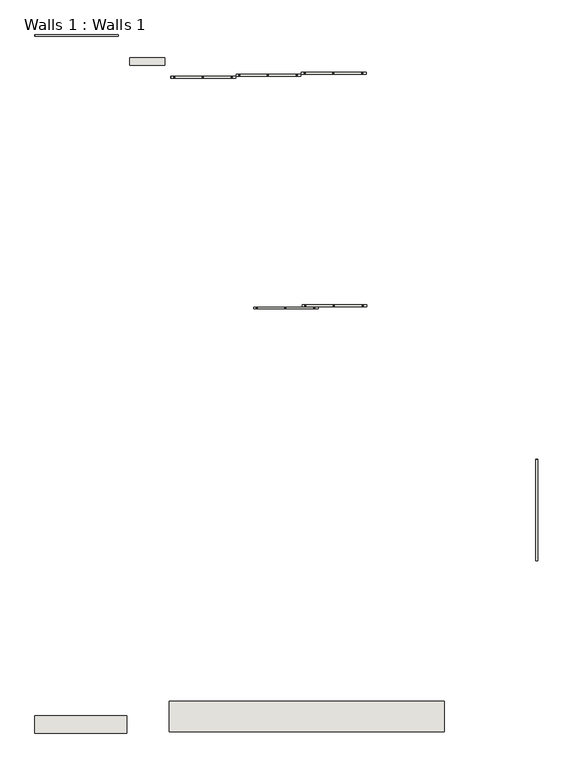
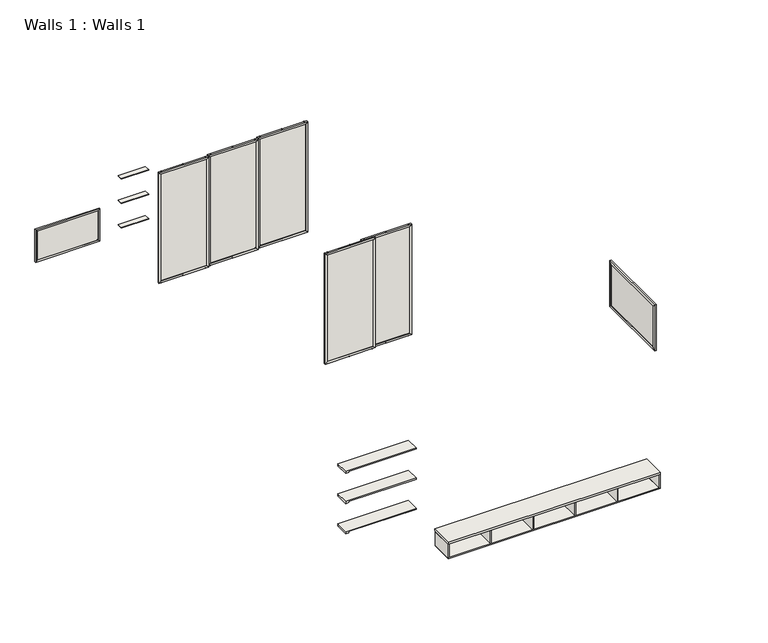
"""IFC4 building model written with IfcOpenShell, lengths in millimetres: wall geometry, Walls 1 : Walls 1."""

from ifc_helpers import new_model, si_unit, point, frame, frame_2d, origin, place, context, project, spatial, polyline, circle_curve, trimmed, segment, composite_curve, outline, extrude, faceted_brep, source, transform, mapped, element, save


def walls_1_walls_1_83899cc1(model_context):
    return source(origin(), model_context, "Body", "SolidModel", [
        extrude(outline(polyline([(2447.42874, -1131.0824715), (2447.42874, 178.9175285), (2467.42874, 178.9175285), (2467.42874, -1131.0824715), (2447.42874, -1131.0824715)])), frame((0.0, 0.0, 1067.3301948), z_axis=(0.0, 0.0, 1.0), x_axis=(1.0, 0.0, 0.0)), (0.0, 0.0, 1.0), 785.0),
        extrude(outline(polyline([(-1130.3753647, 1852.3301948), (-1170.3753647, 1892.3301948), (218.2104217, 1892.3301948), (178.2104217, 1852.3301948), (-1130.3753647, 1852.3301948)])), frame((2437.42874, 0.0, 0.0), z_axis=(1.0, 0.0, 0.0), x_axis=(0.0, 1.0, 0.0)), (0.0, 0.0, 1.0), 30.0),
        extrude(outline(polyline([(-1171.0824715, 1891.6230881), (-1131.0824715, 1851.6230881), (-1131.0824715, 1068.0373016), (-1171.0824715, 1028.0373016), (-1171.0824715, 1891.6230881)])), frame((2437.42874, 0.0, 0.0), z_axis=(1.0, 0.0, 0.0), x_axis=(0.0, 1.0, 0.0)), (0.0, 0.0, 1.0), 30.0),
        extrude(outline(polyline([(218.9175285, 1891.6230881), (218.9175285, 1028.0373016), (178.9175285, 1068.0373016), (178.9175285, 1851.6230881), (218.9175285, 1891.6230881)])), frame((2437.42874, 0.0, 0.0), z_axis=(1.0, 0.0, 0.0), x_axis=(0.0, 1.0, 0.0)), (0.0, 0.0, 1.0), 30.0),
        extrude(outline(polyline([(-1130.3753647, 1067.3301948), (178.2104217, 1067.3301948), (218.2104217, 1027.3301948), (-1170.3753647, 1027.3301948), (-1130.3753647, 1067.3301948)])), frame((2437.42874, 0.0, 0.0), z_axis=(1.0, 0.0, 0.0), x_axis=(0.0, 1.0, 0.0)), (0.0, 0.0, 1.0), 30.0),
        extrude(outline(polyline([(-752.57126, 5522.5768874), (87.42874, 5522.5768874), (87.42874, 5516.5768874), (-752.57126, 5516.5768874), (-752.57126, 5522.5768874)])), frame((0.0, 0.0, 65.0), z_axis=(0.0, 0.0, 1.0), x_axis=(1.0, 0.0, 0.0)), (0.0, 0.0, 1.0), 2030.0),
        extrude(outline(polyline([(-347.576549, 5528.5768874), (-334.6735428, 5528.5768874), (-334.6735428, 5510.5768874), (-347.576549, 5510.5768874), (-347.576549, 5528.5768874)])), frame((0.0, 0.0, 2120.0), z_axis=(0.0, 0.0, 1.0), x_axis=(1.0, 0.0, 0.0)), (0.0, 0.0, 1.0), 1.94884),
        extrude(outline(composite_curve([segment(trimmed(circle_curve(frame_2d((2125.9598198, -341.123831)), 4.0401802), [point((2125.9598198, -345.1640112))], [point((2125.9598198, -337.0836508))], False, "CARTESIAN"), True, "CONTINUOUS"), segment(trimmed(circle_curve(frame_2d((2125.9598198, -341.123831)), 4.0401802), [point((2125.9598198, -337.0836508))], [point((2125.9598198, -345.1640112))], False, "CARTESIAN"), True, "CONTINUOUS")], self_intersect=False)), frame((0.0, 5514.5768874, 0.0), z_axis=(0.0, 1.0, 0.0), x_axis=(0.0, 0.0, 1.0)), (0.0, 0.0, 1.0), 10.0),
        extrude(outline(polyline([(-737.576549, 5528.5768874), (-724.6735428, 5528.5768874), (-724.6735428, 5510.5768874), (-737.576549, 5510.5768874), (-737.576549, 5528.5768874)])), frame((0.0, 0.0, 2120.0), z_axis=(0.0, 0.0, 1.0), x_axis=(1.0, 0.0, 0.0)), (0.0, 0.0, 1.0), 1.94884),
        extrude(outline(composite_curve([segment(trimmed(circle_curve(frame_2d((2125.9598198, -731.123831)), 4.0401802), [point((2125.9598198, -735.1640112))], [point((2125.9598198, -727.0836508))], False, "CARTESIAN"), True, "CONTINUOUS"), segment(trimmed(circle_curve(frame_2d((2125.9598198, -731.123831)), 4.0401802), [point((2125.9598198, -727.0836508))], [point((2125.9598198, -735.1640112))], False, "CARTESIAN"), True, "CONTINUOUS")], self_intersect=False)), frame((0.0, 5514.5768874, 0.0), z_axis=(0.0, 1.0, 0.0), x_axis=(0.0, 0.0, 1.0)), (0.0, 0.0, 1.0), 10.0),
        extrude(outline(polyline([(50.6074994, 5528.5768874), (63.5105056, 5528.5768874), (63.5105056, 5510.5768874), (50.6074994, 5510.5768874), (50.6074994, 5528.5768874)])), frame((0.0, 0.0, 2120.0), z_axis=(0.0, 0.0, 1.0), x_axis=(1.0, 0.0, 0.0)), (0.0, 0.0, 1.0), 1.94884),
        extrude(outline(composite_curve([segment(trimmed(circle_curve(frame_2d((2125.9598198, 57.0602174)), 4.0401802), [point((2125.9598198, 53.0200371))], [point((2125.9598198, 61.1003976))], False, "CARTESIAN"), True, "CONTINUOUS"), segment(trimmed(circle_curve(frame_2d((2125.9598198, 57.0602174)), 4.0401802), [point((2125.9598198, 61.1003976))], [point((2125.9598198, 53.0200371))], False, "CARTESIAN"), True, "CONTINUOUS")], self_intersect=False)), frame((0.0, 5514.5768874, 0.0), z_axis=(0.0, 1.0, 0.0), x_axis=(0.0, 0.0, 1.0)), (0.0, 0.0, 1.0), 10.0),
        extrude(outline(polyline([(-347.576549, 5528.5768874), (-334.6735428, 5528.5768874), (-334.6735428, 5510.5768874), (-347.576549, 5510.5768874), (-347.576549, 5528.5768874)])), frame((0.0, 0.0, 38.05116), z_axis=(0.0, 0.0, 1.0), x_axis=(1.0, 0.0, 0.0)), (0.0, 0.0, 1.0), 1.94884),
        extrude(outline(composite_curve([segment(trimmed(circle_curve(frame_2d((34.0401802, -341.123831)), 4.0401802), [point((34.0401802, -345.1640112))], [point((34.0401802, -337.0836508))], False, "CARTESIAN"), True, "CONTINUOUS"), segment(trimmed(circle_curve(frame_2d((34.0401802, -341.123831)), 4.0401802), [point((34.0401802, -337.0836508))], [point((34.0401802, -345.1640112))], False, "CARTESIAN"), True, "CONTINUOUS")], self_intersect=False)), frame((0.0, 5514.5768874, 0.0), z_axis=(0.0, 1.0, 0.0), x_axis=(0.0, 0.0, 1.0)), (0.0, 0.0, 1.0), 10.0),
        extrude(outline(polyline([(-737.576549, 5528.5768874), (-724.6735428, 5528.5768874), (-724.6735428, 5510.5768874), (-737.576549, 5510.5768874), (-737.576549, 5528.5768874)])), frame((0.0, 0.0, 38.05116), z_axis=(0.0, 0.0, 1.0), x_axis=(1.0, 0.0, 0.0)), (0.0, 0.0, 1.0), 1.94884),
        extrude(outline(composite_curve([segment(trimmed(circle_curve(frame_2d((34.0401802, -731.123831)), 4.0401802), [point((34.0401802, -735.1640112))], [point((34.0401802, -727.0836508))], False, "CARTESIAN"), True, "CONTINUOUS"), segment(trimmed(circle_curve(frame_2d((34.0401802, -731.123831)), 4.0401802), [point((34.0401802, -727.0836508))], [point((34.0401802, -735.1640112))], False, "CARTESIAN"), True, "CONTINUOUS")], self_intersect=False)), frame((0.0, 5514.5768874, 0.0), z_axis=(0.0, 1.0, 0.0), x_axis=(0.0, 0.0, 1.0)), (0.0, 0.0, 1.0), 10.0),
        extrude(outline(polyline([(50.6074994, 5528.5768874), (63.5105056, 5528.5768874), (63.5105056, 5510.5768874), (50.6074994, 5510.5768874), (50.6074994, 5528.5768874)])), frame((0.0, 0.0, 38.05116), z_axis=(0.0, 0.0, 1.0), x_axis=(1.0, 0.0, 0.0)), (0.0, 0.0, 1.0), 1.94884),
        extrude(outline(composite_curve([segment(trimmed(circle_curve(frame_2d((34.0401802, 57.0602174)), 4.0401802), [point((34.0401802, 53.0200371))], [point((34.0401802, 61.1003976))], False, "CARTESIAN"), True, "CONTINUOUS"), segment(trimmed(circle_curve(frame_2d((34.0401802, 57.0602174)), 4.0401802), [point((34.0401802, 61.1003976))], [point((34.0401802, 53.0200371))], False, "CARTESIAN"), True, "CONTINUOUS")], self_intersect=False)), frame((0.0, 5514.5768874, 0.0), z_axis=(0.0, 1.0, 0.0), x_axis=(0.0, 0.0, 1.0)), (0.0, 0.0, 1.0), 10.0),
        extrude(outline(polyline([(2120.0, 111.7216332), (2120.0, -776.8641532), (2085.0, -741.8641532), (2085.0, 76.7216332), (2120.0, 111.7216332)])), frame((0.0, 5506.5768874, 0.0), z_axis=(0.0, 1.0, 0.0), x_axis=(0.0, 0.0, 1.0)), (0.0, 0.0, 1.0), 26.0),
        extrude(outline(polyline([(2119.2928932, -777.57126), (40.7071068, -777.57126), (75.7071068, -742.57126), (2084.2928932, -742.57126), (2119.2928932, -777.57126)])), frame((0.0, 5506.5768874, 0.0), z_axis=(0.0, 1.0, 0.0), x_axis=(0.0, 0.0, 1.0)), (0.0, 0.0, 1.0), 26.0),
        extrude(outline(polyline([(40.7071068, 112.42874), (2119.2928932, 112.42874), (2084.2928932, 77.42874), (75.7071068, 77.42874), (40.7071068, 112.42874)])), frame((0.0, 5506.5768874, 0.0), z_axis=(0.0, 1.0, 0.0), x_axis=(0.0, 0.0, 1.0)), (0.0, 0.0, 1.0), 26.0),
        extrude(outline(polyline([(40.0, 111.7216332), (75.0, 76.7216332), (75.0, -741.8641532), (40.0, -776.8641532), (40.0, 111.7216332)])), frame((0.0, 5506.5768874, 0.0), z_axis=(0.0, 1.0, 0.0), x_axis=(0.0, 0.0, 1.0)), (0.0, 0.0, 1.0), 26.0),
        extrude(outline(polyline([(-1647.57126, 5494.5768874), (-807.57126, 5494.5768874), (-807.57126, 5488.5768874), (-1647.57126, 5488.5768874), (-1647.57126, 5494.5768874)])), frame((0.0, 0.0, 65.0), z_axis=(0.0, 0.0, 1.0), x_axis=(1.0, 0.0, 0.0)), (0.0, 0.0, 1.0), 2030.0),
        extrude(outline(polyline([(-1242.576549, 5500.5768874), (-1229.6735428, 5500.5768874), (-1229.6735428, 5482.5768874), (-1242.576549, 5482.5768874), (-1242.576549, 5500.5768874)])), frame((0.0, 0.0, 2120.0), z_axis=(0.0, 0.0, 1.0), x_axis=(1.0, 0.0, 0.0)), (0.0, 0.0, 1.0), 1.94884),
        extrude(outline(composite_curve([segment(trimmed(circle_curve(frame_2d((2125.9598198, -1236.123831)), 4.0401802), [point((2125.9598198, -1240.1640112))], [point((2125.9598198, -1232.0836508))], False, "CARTESIAN"), True, "CONTINUOUS"), segment(trimmed(circle_curve(frame_2d((2125.9598198, -1236.123831)), 4.0401802), [point((2125.9598198, -1232.0836508))], [point((2125.9598198, -1240.1640112))], False, "CARTESIAN"), True, "CONTINUOUS")], self_intersect=False)), frame((0.0, 5486.5768874, 0.0), z_axis=(0.0, 1.0, 0.0), x_axis=(0.0, 0.0, 1.0)), (0.0, 0.0, 1.0), 10.0),
        extrude(outline(polyline([(-1632.576549, 5500.5768874), (-1619.6735428, 5500.5768874), (-1619.6735428, 5482.5768874), (-1632.576549, 5482.5768874), (-1632.576549, 5500.5768874)])), frame((0.0, 0.0, 2120.0), z_axis=(0.0, 0.0, 1.0), x_axis=(1.0, 0.0, 0.0)), (0.0, 0.0, 1.0), 1.94884),
        extrude(outline(composite_curve([segment(trimmed(circle_curve(frame_2d((2125.9598198, -1626.123831)), 4.0401802), [point((2125.9598198, -1630.1640112))], [point((2125.9598198, -1622.0836508))], False, "CARTESIAN"), True, "CONTINUOUS"), segment(trimmed(circle_curve(frame_2d((2125.9598198, -1626.123831)), 4.0401802), [point((2125.9598198, -1622.0836508))], [point((2125.9598198, -1630.1640112))], False, "CARTESIAN"), True, "CONTINUOUS")], self_intersect=False)), frame((0.0, 5486.5768874, 0.0), z_axis=(0.0, 1.0, 0.0), x_axis=(0.0, 0.0, 1.0)), (0.0, 0.0, 1.0), 10.0),
        extrude(outline(polyline([(-844.3925006, 5500.5768874), (-831.4894944, 5500.5768874), (-831.4894944, 5482.5768874), (-844.3925006, 5482.5768874), (-844.3925006, 5500.5768874)])), frame((0.0, 0.0, 2120.0), z_axis=(0.0, 0.0, 1.0), x_axis=(1.0, 0.0, 0.0)), (0.0, 0.0, 1.0), 1.94884),
        extrude(outline(composite_curve([segment(trimmed(circle_curve(frame_2d((2125.9598198, -837.9397826)), 4.0401802), [point((2125.9598198, -841.9799629))], [point((2125.9598198, -833.8996024))], False, "CARTESIAN"), True, "CONTINUOUS"), segment(trimmed(circle_curve(frame_2d((2125.9598198, -837.9397826)), 4.0401802), [point((2125.9598198, -833.8996024))], [point((2125.9598198, -841.9799629))], False, "CARTESIAN"), True, "CONTINUOUS")], self_intersect=False)), frame((0.0, 5486.5768874, 0.0), z_axis=(0.0, 1.0, 0.0), x_axis=(0.0, 0.0, 1.0)), (0.0, 0.0, 1.0), 10.0),
        extrude(outline(polyline([(-1242.576549, 5500.5768874), (-1229.6735428, 5500.5768874), (-1229.6735428, 5482.5768874), (-1242.576549, 5482.5768874), (-1242.576549, 5500.5768874)])), frame((0.0, 0.0, 38.05116), z_axis=(0.0, 0.0, 1.0), x_axis=(1.0, 0.0, 0.0)), (0.0, 0.0, 1.0), 1.94884),
        extrude(outline(composite_curve([segment(trimmed(circle_curve(frame_2d((34.0401802, -1236.123831)), 4.0401802), [point((34.0401802, -1240.1640112))], [point((34.0401802, -1232.0836508))], False, "CARTESIAN"), True, "CONTINUOUS"), segment(trimmed(circle_curve(frame_2d((34.0401802, -1236.123831)), 4.0401802), [point((34.0401802, -1232.0836508))], [point((34.0401802, -1240.1640112))], False, "CARTESIAN"), True, "CONTINUOUS")], self_intersect=False)), frame((0.0, 5486.5768874, 0.0), z_axis=(0.0, 1.0, 0.0), x_axis=(0.0, 0.0, 1.0)), (0.0, 0.0, 1.0), 10.0),
        extrude(outline(polyline([(-1632.576549, 5500.5768874), (-1619.6735428, 5500.5768874), (-1619.6735428, 5482.5768874), (-1632.576549, 5482.5768874), (-1632.576549, 5500.5768874)])), frame((0.0, 0.0, 38.05116), z_axis=(0.0, 0.0, 1.0), x_axis=(1.0, 0.0, 0.0)), (0.0, 0.0, 1.0), 1.94884),
        extrude(outline(composite_curve([segment(trimmed(circle_curve(frame_2d((34.0401802, -1626.123831)), 4.0401802), [point((34.0401802, -1630.1640112))], [point((34.0401802, -1622.0836508))], False, "CARTESIAN"), True, "CONTINUOUS"), segment(trimmed(circle_curve(frame_2d((34.0401802, -1626.123831)), 4.0401802), [point((34.0401802, -1622.0836508))], [point((34.0401802, -1630.1640112))], False, "CARTESIAN"), True, "CONTINUOUS")], self_intersect=False)), frame((0.0, 5486.5768874, 0.0), z_axis=(0.0, 1.0, 0.0), x_axis=(0.0, 0.0, 1.0)), (0.0, 0.0, 1.0), 10.0),
        extrude(outline(polyline([(-844.3925006, 5500.5768874), (-831.4894944, 5500.5768874), (-831.4894944, 5482.5768874), (-844.3925006, 5482.5768874), (-844.3925006, 5500.5768874)])), frame((0.0, 0.0, 38.05116), z_axis=(0.0, 0.0, 1.0), x_axis=(1.0, 0.0, 0.0)), (0.0, 0.0, 1.0), 1.94884),
        extrude(outline(composite_curve([segment(trimmed(circle_curve(frame_2d((34.0401802, -837.9397826)), 4.0401802), [point((34.0401802, -841.9799629))], [point((34.0401802, -833.8996024))], False, "CARTESIAN"), True, "CONTINUOUS"), segment(trimmed(circle_curve(frame_2d((34.0401802, -837.9397826)), 4.0401802), [point((34.0401802, -833.8996024))], [point((34.0401802, -841.9799629))], False, "CARTESIAN"), True, "CONTINUOUS")], self_intersect=False)), frame((0.0, 5486.5768874, 0.0), z_axis=(0.0, 1.0, 0.0), x_axis=(0.0, 0.0, 1.0)), (0.0, 0.0, 1.0), 10.0),
        extrude(outline(polyline([(2120.0, -783.2783668), (2120.0, -1671.8641532), (2085.0, -1636.8641532), (2085.0, -818.2783668), (2120.0, -783.2783668)])), frame((0.0, 5478.5768874, 0.0), z_axis=(0.0, 1.0, 0.0), x_axis=(0.0, 0.0, 1.0)), (0.0, 0.0, 1.0), 26.0),
        extrude(outline(polyline([(2119.2928932, -1672.57126), (40.7071068, -1672.57126), (75.7071068, -1637.57126), (2084.2928932, -1637.57126), (2119.2928932, -1672.57126)])), frame((0.0, 5478.5768874, 0.0), z_axis=(0.0, 1.0, 0.0), x_axis=(0.0, 0.0, 1.0)), (0.0, 0.0, 1.0), 26.0),
        extrude(outline(polyline([(40.7071068, -782.57126), (2119.2928932, -782.57126), (2084.2928932, -817.57126), (75.7071068, -817.57126), (40.7071068, -782.57126)])), frame((0.0, 5478.5768874, 0.0), z_axis=(0.0, 1.0, 0.0), x_axis=(0.0, 0.0, 1.0)), (0.0, 0.0, 1.0), 26.0),
        extrude(outline(polyline([(40.0, -783.2783668), (75.0, -818.2783668), (75.0, -1636.8641532), (40.0, -1671.8641532), (40.0, -783.2783668)])), frame((0.0, 5478.5768874, 0.0), z_axis=(0.0, 1.0, 0.0), x_axis=(0.0, 0.0, 1.0)), (0.0, 0.0, 1.0), 26.0),
        extrude(outline(polyline([(-2542.57126, 5466.5768874), (-1702.57126, 5466.5768874), (-1702.57126, 5460.5768874), (-2542.57126, 5460.5768874), (-2542.57126, 5466.5768874)])), frame((0.0, 0.0, 65.0), z_axis=(0.0, 0.0, 1.0), x_axis=(1.0, 0.0, 0.0)), (0.0, 0.0, 1.0), 2030.0),
        extrude(outline(polyline([(-2137.576549, 5472.5768874), (-2124.6735428, 5472.5768874), (-2124.6735428, 5454.5768874), (-2137.576549, 5454.5768874), (-2137.576549, 5472.5768874)])), frame((0.0, 0.0, 2120.0), z_axis=(0.0, 0.0, 1.0), x_axis=(1.0, 0.0, 0.0)), (0.0, 0.0, 1.0), 1.94884),
        extrude(outline(composite_curve([segment(trimmed(circle_curve(frame_2d((2125.9598198, -2131.123831)), 4.0401802), [point((2125.9598198, -2135.1640112))], [point((2125.9598198, -2127.0836508))], False, "CARTESIAN"), True, "CONTINUOUS"), segment(trimmed(circle_curve(frame_2d((2125.9598198, -2131.123831)), 4.0401802), [point((2125.9598198, -2127.0836508))], [point((2125.9598198, -2135.1640112))], False, "CARTESIAN"), True, "CONTINUOUS")], self_intersect=False)), frame((0.0, 5458.5768874, 0.0), z_axis=(0.0, 1.0, 0.0), x_axis=(0.0, 0.0, 1.0)), (0.0, 0.0, 1.0), 10.0),
        extrude(outline(polyline([(-2527.576549, 5472.5768874), (-2514.6735428, 5472.5768874), (-2514.6735428, 5454.5768874), (-2527.576549, 5454.5768874), (-2527.576549, 5472.5768874)])), frame((0.0, 0.0, 2120.0), z_axis=(0.0, 0.0, 1.0), x_axis=(1.0, 0.0, 0.0)), (0.0, 0.0, 1.0), 1.94884),
        extrude(outline(composite_curve([segment(trimmed(circle_curve(frame_2d((2125.9598198, -2521.123831)), 4.0401802), [point((2125.9598198, -2525.1640112))], [point((2125.9598198, -2517.0836508))], False, "CARTESIAN"), True, "CONTINUOUS"), segment(trimmed(circle_curve(frame_2d((2125.9598198, -2521.123831)), 4.0401802), [point((2125.9598198, -2517.0836508))], [point((2125.9598198, -2525.1640112))], False, "CARTESIAN"), True, "CONTINUOUS")], self_intersect=False)), frame((0.0, 5458.5768874, 0.0), z_axis=(0.0, 1.0, 0.0), x_axis=(0.0, 0.0, 1.0)), (0.0, 0.0, 1.0), 10.0),
        extrude(outline(polyline([(-1739.3925006, 5472.5768874), (-1726.4894944, 5472.5768874), (-1726.4894944, 5454.5768874), (-1739.3925006, 5454.5768874), (-1739.3925006, 5472.5768874)])), frame((0.0, 0.0, 2120.0), z_axis=(0.0, 0.0, 1.0), x_axis=(1.0, 0.0, 0.0)), (0.0, 0.0, 1.0), 1.94884),
        extrude(outline(composite_curve([segment(trimmed(circle_curve(frame_2d((2125.9598198, -1732.9397826)), 4.0401802), [point((2125.9598198, -1736.9799629))], [point((2125.9598198, -1728.8996024))], False, "CARTESIAN"), True, "CONTINUOUS"), segment(trimmed(circle_curve(frame_2d((2125.9598198, -1732.9397826)), 4.0401802), [point((2125.9598198, -1728.8996024))], [point((2125.9598198, -1736.9799629))], False, "CARTESIAN"), True, "CONTINUOUS")], self_intersect=False)), frame((0.0, 5458.5768874, 0.0), z_axis=(0.0, 1.0, 0.0), x_axis=(0.0, 0.0, 1.0)), (0.0, 0.0, 1.0), 10.0),
        extrude(outline(polyline([(-2137.576549, 5472.5768874), (-2124.6735428, 5472.5768874), (-2124.6735428, 5454.5768874), (-2137.576549, 5454.5768874), (-2137.576549, 5472.5768874)])), frame((0.0, 0.0, 38.05116), z_axis=(0.0, 0.0, 1.0), x_axis=(1.0, 0.0, 0.0)), (0.0, 0.0, 1.0), 1.94884),
        extrude(outline(composite_curve([segment(trimmed(circle_curve(frame_2d((34.0401802, -2131.123831)), 4.0401802), [point((34.0401802, -2135.1640112))], [point((34.0401802, -2127.0836508))], False, "CARTESIAN"), True, "CONTINUOUS"), segment(trimmed(circle_curve(frame_2d((34.0401802, -2131.123831)), 4.0401802), [point((34.0401802, -2127.0836508))], [point((34.0401802, -2135.1640112))], False, "CARTESIAN"), True, "CONTINUOUS")], self_intersect=False)), frame((0.0, 5458.5768874, 0.0), z_axis=(0.0, 1.0, 0.0), x_axis=(0.0, 0.0, 1.0)), (0.0, 0.0, 1.0), 10.0),
        extrude(outline(polyline([(-2527.576549, 5472.5768874), (-2514.6735428, 5472.5768874), (-2514.6735428, 5454.5768874), (-2527.576549, 5454.5768874), (-2527.576549, 5472.5768874)])), frame((0.0, 0.0, 38.05116), z_axis=(0.0, 0.0, 1.0), x_axis=(1.0, 0.0, 0.0)), (0.0, 0.0, 1.0), 1.94884),
        extrude(outline(composite_curve([segment(trimmed(circle_curve(frame_2d((34.0401802, -2521.123831)), 4.0401802), [point((34.0401802, -2525.1640112))], [point((34.0401802, -2517.0836508))], False, "CARTESIAN"), True, "CONTINUOUS"), segment(trimmed(circle_curve(frame_2d((34.0401802, -2521.123831)), 4.0401802), [point((34.0401802, -2517.0836508))], [point((34.0401802, -2525.1640112))], False, "CARTESIAN"), True, "CONTINUOUS")], self_intersect=False)), frame((0.0, 5458.5768874, 0.0), z_axis=(0.0, 1.0, 0.0), x_axis=(0.0, 0.0, 1.0)), (0.0, 0.0, 1.0), 10.0),
        extrude(outline(polyline([(-1739.3925006, 5472.5768874), (-1726.4894944, 5472.5768874), (-1726.4894944, 5454.5768874), (-1739.3925006, 5454.5768874), (-1739.3925006, 5472.5768874)])), frame((0.0, 0.0, 38.05116), z_axis=(0.0, 0.0, 1.0), x_axis=(1.0, 0.0, 0.0)), (0.0, 0.0, 1.0), 1.94884),
        extrude(outline(composite_curve([segment(trimmed(circle_curve(frame_2d((34.0401802, -1732.9397826)), 4.0401802), [point((34.0401802, -1736.9799629))], [point((34.0401802, -1728.8996024))], False, "CARTESIAN"), True, "CONTINUOUS"), segment(trimmed(circle_curve(frame_2d((34.0401802, -1732.9397826)), 4.0401802), [point((34.0401802, -1728.8996024))], [point((34.0401802, -1736.9799629))], False, "CARTESIAN"), True, "CONTINUOUS")], self_intersect=False)), frame((0.0, 5458.5768874, 0.0), z_axis=(0.0, 1.0, 0.0), x_axis=(0.0, 0.0, 1.0)), (0.0, 0.0, 1.0), 10.0),
        extrude(outline(polyline([(2120.0, -1678.2783668), (2120.0, -2566.8641532), (2085.0, -2531.8641532), (2085.0, -1713.2783668), (2120.0, -1678.2783668)])), frame((0.0, 5450.5768874, 0.0), z_axis=(0.0, 1.0, 0.0), x_axis=(0.0, 0.0, 1.0)), (0.0, 0.0, 1.0), 26.0),
        extrude(outline(polyline([(2119.2928932, -2567.57126), (40.7071068, -2567.57126), (75.7071068, -2532.57126), (2084.2928932, -2532.57126), (2119.2928932, -2567.57126)])), frame((0.0, 5450.5768874, 0.0), z_axis=(0.0, 1.0, 0.0), x_axis=(0.0, 0.0, 1.0)), (0.0, 0.0, 1.0), 26.0),
        extrude(outline(polyline([(40.7071068, -1677.57126), (2119.2928932, -1677.57126), (2084.2928932, -1712.57126), (75.7071068, -1712.57126), (40.7071068, -1677.57126)])), frame((0.0, 5450.5768874, 0.0), z_axis=(0.0, 1.0, 0.0), x_axis=(0.0, 0.0, 1.0)), (0.0, 0.0, 1.0), 26.0),
        extrude(outline(polyline([(40.0, -1678.2783668), (75.0, -1713.2783668), (75.0, -2531.8641532), (40.0, -2566.8641532), (40.0, -1678.2783668)])), frame((0.0, 5450.5768874, 0.0), z_axis=(0.0, 1.0, 0.0), x_axis=(0.0, 0.0, 1.0)), (0.0, 0.0, 1.0), 26.0),
        extrude(outline(polyline([(-1407.57126, 2300.5768874), (-567.57126, 2300.5768874), (-567.57126, 2294.5768874), (-1407.57126, 2294.5768874), (-1407.57126, 2300.5768874)])), frame((0.0, 0.0, 65.0), z_axis=(0.0, 0.0, 1.0), x_axis=(1.0, 0.0, 0.0)), (0.0, 0.0, 1.0), 2030.0),
        extrude(outline(polyline([(-1002.576549, 2306.5768874), (-989.6735428, 2306.5768874), (-989.6735428, 2288.5768874), (-1002.576549, 2288.5768874), (-1002.576549, 2306.5768874)])), frame((0.0, 0.0, 2120.0), z_axis=(0.0, 0.0, 1.0), x_axis=(1.0, 0.0, 0.0)), (0.0, 0.0, 1.0), 1.94884),
        extrude(outline(composite_curve([segment(trimmed(circle_curve(frame_2d((2125.9598198, -996.123831)), 4.0401802), [point((2125.9598198, -1000.1640112))], [point((2125.9598198, -992.0836508))], False, "CARTESIAN"), True, "CONTINUOUS"), segment(trimmed(circle_curve(frame_2d((2125.9598198, -996.123831)), 4.0401802), [point((2125.9598198, -992.0836508))], [point((2125.9598198, -1000.1640112))], False, "CARTESIAN"), True, "CONTINUOUS")], self_intersect=False)), frame((0.0, 2292.5768874, 0.0), z_axis=(0.0, 1.0, 0.0), x_axis=(0.0, 0.0, 1.0)), (0.0, 0.0, 1.0), 10.0),
        extrude(outline(polyline([(-1392.576549, 2306.5768874), (-1379.6735428, 2306.5768874), (-1379.6735428, 2288.5768874), (-1392.576549, 2288.5768874), (-1392.576549, 2306.5768874)])), frame((0.0, 0.0, 2120.0), z_axis=(0.0, 0.0, 1.0), x_axis=(1.0, 0.0, 0.0)), (0.0, 0.0, 1.0), 1.94884),
        extrude(outline(composite_curve([segment(trimmed(circle_curve(frame_2d((2125.9598198, -1386.123831)), 4.0401802), [point((2125.9598198, -1390.1640112))], [point((2125.9598198, -1382.0836508))], False, "CARTESIAN"), True, "CONTINUOUS"), segment(trimmed(circle_curve(frame_2d((2125.9598198, -1386.123831)), 4.0401802), [point((2125.9598198, -1382.0836508))], [point((2125.9598198, -1390.1640112))], False, "CARTESIAN"), True, "CONTINUOUS")], self_intersect=False)), frame((0.0, 2292.5768874, 0.0), z_axis=(0.0, 1.0, 0.0), x_axis=(0.0, 0.0, 1.0)), (0.0, 0.0, 1.0), 10.0),
        extrude(outline(polyline([(-604.3925006, 2306.5768874), (-591.4894944, 2306.5768874), (-591.4894944, 2288.5768874), (-604.3925006, 2288.5768874), (-604.3925006, 2306.5768874)])), frame((0.0, 0.0, 2120.0), z_axis=(0.0, 0.0, 1.0), x_axis=(1.0, 0.0, 0.0)), (0.0, 0.0, 1.0), 1.94884),
        extrude(outline(composite_curve([segment(trimmed(circle_curve(frame_2d((2125.9598198, -597.9397826)), 4.0401802), [point((2125.9598198, -601.9799629))], [point((2125.9598198, -593.8996024))], False, "CARTESIAN"), True, "CONTINUOUS"), segment(trimmed(circle_curve(frame_2d((2125.9598198, -597.9397826)), 4.0401802), [point((2125.9598198, -593.8996024))], [point((2125.9598198, -601.9799629))], False, "CARTESIAN"), True, "CONTINUOUS")], self_intersect=False)), frame((0.0, 2292.5768874, 0.0), z_axis=(0.0, 1.0, 0.0), x_axis=(0.0, 0.0, 1.0)), (0.0, 0.0, 1.0), 10.0),
        extrude(outline(polyline([(-1002.576549, 2306.5768874), (-989.6735428, 2306.5768874), (-989.6735428, 2288.5768874), (-1002.576549, 2288.5768874), (-1002.576549, 2306.5768874)])), frame((0.0, 0.0, 38.05116), z_axis=(0.0, 0.0, 1.0), x_axis=(1.0, 0.0, 0.0)), (0.0, 0.0, 1.0), 1.94884),
        extrude(outline(composite_curve([segment(trimmed(circle_curve(frame_2d((34.0401802, -996.123831)), 4.0401802), [point((34.0401802, -1000.1640112))], [point((34.0401802, -992.0836508))], False, "CARTESIAN"), True, "CONTINUOUS"), segment(trimmed(circle_curve(frame_2d((34.0401802, -996.123831)), 4.0401802), [point((34.0401802, -992.0836508))], [point((34.0401802, -1000.1640112))], False, "CARTESIAN"), True, "CONTINUOUS")], self_intersect=False)), frame((0.0, 2292.5768874, 0.0), z_axis=(0.0, 1.0, 0.0), x_axis=(0.0, 0.0, 1.0)), (0.0, 0.0, 1.0), 10.0),
        extrude(outline(polyline([(-1392.576549, 2306.5768874), (-1379.6735428, 2306.5768874), (-1379.6735428, 2288.5768874), (-1392.576549, 2288.5768874), (-1392.576549, 2306.5768874)])), frame((0.0, 0.0, 38.05116), z_axis=(0.0, 0.0, 1.0), x_axis=(1.0, 0.0, 0.0)), (0.0, 0.0, 1.0), 1.94884),
        extrude(outline(composite_curve([segment(trimmed(circle_curve(frame_2d((34.0401802, -1386.123831)), 4.0401802), [point((34.0401802, -1390.1640112))], [point((34.0401802, -1382.0836508))], False, "CARTESIAN"), True, "CONTINUOUS"), segment(trimmed(circle_curve(frame_2d((34.0401802, -1386.123831)), 4.0401802), [point((34.0401802, -1382.0836508))], [point((34.0401802, -1390.1640112))], False, "CARTESIAN"), True, "CONTINUOUS")], self_intersect=False)), frame((0.0, 2292.5768874, 0.0), z_axis=(0.0, 1.0, 0.0), x_axis=(0.0, 0.0, 1.0)), (0.0, 0.0, 1.0), 10.0),
        extrude(outline(polyline([(-604.3925006, 2306.5768874), (-591.4894944, 2306.5768874), (-591.4894944, 2288.5768874), (-604.3925006, 2288.5768874), (-604.3925006, 2306.5768874)])), frame((0.0, 0.0, 38.05116), z_axis=(0.0, 0.0, 1.0), x_axis=(1.0, 0.0, 0.0)), (0.0, 0.0, 1.0), 1.94884),
        extrude(outline(composite_curve([segment(trimmed(circle_curve(frame_2d((34.0401802, -597.9397826)), 4.0401802), [point((34.0401802, -601.9799629))], [point((34.0401802, -593.8996024))], False, "CARTESIAN"), True, "CONTINUOUS"), segment(trimmed(circle_curve(frame_2d((34.0401802, -597.9397826)), 4.0401802), [point((34.0401802, -593.8996024))], [point((34.0401802, -601.9799629))], False, "CARTESIAN"), True, "CONTINUOUS")], self_intersect=False)), frame((0.0, 2292.5768874, 0.0), z_axis=(0.0, 1.0, 0.0), x_axis=(0.0, 0.0, 1.0)), (0.0, 0.0, 1.0), 10.0),
        extrude(outline(polyline([(2120.0, -543.2783668), (2120.0, -1431.8641532), (2085.0, -1396.8641532), (2085.0, -578.2783668), (2120.0, -543.2783668)])), frame((0.0, 2284.5768874, 0.0), z_axis=(0.0, 1.0, 0.0), x_axis=(0.0, 0.0, 1.0)), (0.0, 0.0, 1.0), 26.0),
        extrude(outline(polyline([(2119.2928932, -1432.57126), (40.7071068, -1432.57126), (75.7071068, -1397.57126), (2084.2928932, -1397.57126), (2119.2928932, -1432.57126)])), frame((0.0, 2284.5768874, 0.0), z_axis=(0.0, 1.0, 0.0), x_axis=(0.0, 0.0, 1.0)), (0.0, 0.0, 1.0), 26.0),
        extrude(outline(polyline([(40.7071068, -542.57126), (2119.2928932, -542.57126), (2084.2928932, -577.57126), (75.7071068, -577.57126), (40.7071068, -542.57126)])), frame((0.0, 2284.5768874, 0.0), z_axis=(0.0, 1.0, 0.0), x_axis=(0.0, 0.0, 1.0)), (0.0, 0.0, 1.0), 26.0),
        extrude(outline(polyline([(40.0, -543.2783668), (75.0, -578.2783668), (75.0, -1396.8641532), (40.0, -1431.8641532), (40.0, -543.2783668)])), frame((0.0, 2284.5768874, 0.0), z_axis=(0.0, 1.0, 0.0), x_axis=(0.0, 0.0, 1.0)), (0.0, 0.0, 1.0), 26.0),
        extrude(outline(polyline([(-742.57126, 2328.5768874), (97.42874, 2328.5768874), (97.42874, 2322.5768874), (-742.57126, 2322.5768874), (-742.57126, 2328.5768874)])), frame((0.0, 0.0, 65.0), z_axis=(0.0, 0.0, 1.0), x_axis=(1.0, 0.0, 0.0)), (0.0, 0.0, 1.0), 2030.0),
        extrude(outline(polyline([(-337.576549, 2334.5768874), (-324.6735428, 2334.5768874), (-324.6735428, 2316.5768874), (-337.576549, 2316.5768874), (-337.576549, 2334.5768874)])), frame((0.0, 0.0, 2120.0), z_axis=(0.0, 0.0, 1.0), x_axis=(1.0, 0.0, 0.0)), (0.0, 0.0, 1.0), 1.94884),
        extrude(outline(composite_curve([segment(trimmed(circle_curve(frame_2d((2125.9598198, -331.123831)), 4.0401802), [point((2125.9598198, -335.1640112))], [point((2125.9598198, -327.0836508))], False, "CARTESIAN"), True, "CONTINUOUS"), segment(trimmed(circle_curve(frame_2d((2125.9598198, -331.123831)), 4.0401802), [point((2125.9598198, -327.0836508))], [point((2125.9598198, -335.1640112))], False, "CARTESIAN"), True, "CONTINUOUS")], self_intersect=False)), frame((0.0, 2320.5768874, 0.0), z_axis=(0.0, 1.0, 0.0), x_axis=(0.0, 0.0, 1.0)), (0.0, 0.0, 1.0), 10.0),
        extrude(outline(polyline([(-727.576549, 2334.5768874), (-714.6735428, 2334.5768874), (-714.6735428, 2316.5768874), (-727.576549, 2316.5768874), (-727.576549, 2334.5768874)])), frame((0.0, 0.0, 2120.0), z_axis=(0.0, 0.0, 1.0), x_axis=(1.0, 0.0, 0.0)), (0.0, 0.0, 1.0), 1.94884),
        extrude(outline(composite_curve([segment(trimmed(circle_curve(frame_2d((2125.9598198, -721.123831)), 4.0401802), [point((2125.9598198, -725.1640112))], [point((2125.9598198, -717.0836508))], False, "CARTESIAN"), True, "CONTINUOUS"), segment(trimmed(circle_curve(frame_2d((2125.9598198, -721.123831)), 4.0401802), [point((2125.9598198, -717.0836508))], [point((2125.9598198, -725.1640112))], False, "CARTESIAN"), True, "CONTINUOUS")], self_intersect=False)), frame((0.0, 2320.5768874, 0.0), z_axis=(0.0, 1.0, 0.0), x_axis=(0.0, 0.0, 1.0)), (0.0, 0.0, 1.0), 10.0),
        extrude(outline(polyline([(60.6074994, 2334.5768874), (73.5105056, 2334.5768874), (73.5105056, 2316.5768874), (60.6074994, 2316.5768874), (60.6074994, 2334.5768874)])), frame((0.0, 0.0, 2120.0), z_axis=(0.0, 0.0, 1.0), x_axis=(1.0, 0.0, 0.0)), (0.0, 0.0, 1.0), 1.94884),
        extrude(outline(composite_curve([segment(trimmed(circle_curve(frame_2d((2125.9598198, 67.0602174)), 4.0401802), [point((2125.9598198, 63.0200371))], [point((2125.9598198, 71.1003976))], False, "CARTESIAN"), True, "CONTINUOUS"), segment(trimmed(circle_curve(frame_2d((2125.9598198, 67.0602174)), 4.0401802), [point((2125.9598198, 71.1003976))], [point((2125.9598198, 63.0200371))], False, "CARTESIAN"), True, "CONTINUOUS")], self_intersect=False)), frame((0.0, 2320.5768874, 0.0), z_axis=(0.0, 1.0, 0.0), x_axis=(0.0, 0.0, 1.0)), (0.0, 0.0, 1.0), 10.0),
        extrude(outline(polyline([(-337.576549, 2334.5768874), (-324.6735428, 2334.5768874), (-324.6735428, 2316.5768874), (-337.576549, 2316.5768874), (-337.576549, 2334.5768874)])), frame((0.0, 0.0, 38.05116), z_axis=(0.0, 0.0, 1.0), x_axis=(1.0, 0.0, 0.0)), (0.0, 0.0, 1.0), 1.94884),
        extrude(outline(composite_curve([segment(trimmed(circle_curve(frame_2d((34.0401802, -331.123831)), 4.0401802), [point((34.0401802, -335.1640112))], [point((34.0401802, -327.0836508))], False, "CARTESIAN"), True, "CONTINUOUS"), segment(trimmed(circle_curve(frame_2d((34.0401802, -331.123831)), 4.0401802), [point((34.0401802, -327.0836508))], [point((34.0401802, -335.1640112))], False, "CARTESIAN"), True, "CONTINUOUS")], self_intersect=False)), frame((0.0, 2320.5768874, 0.0), z_axis=(0.0, 1.0, 0.0), x_axis=(0.0, 0.0, 1.0)), (0.0, 0.0, 1.0), 10.0),
        extrude(outline(polyline([(-727.576549, 2334.5768874), (-714.6735428, 2334.5768874), (-714.6735428, 2316.5768874), (-727.576549, 2316.5768874), (-727.576549, 2334.5768874)])), frame((0.0, 0.0, 38.05116), z_axis=(0.0, 0.0, 1.0), x_axis=(1.0, 0.0, 0.0)), (0.0, 0.0, 1.0), 1.94884),
        extrude(outline(composite_curve([segment(trimmed(circle_curve(frame_2d((34.0401802, -721.123831)), 4.0401802), [point((34.0401802, -725.1640112))], [point((34.0401802, -717.0836508))], False, "CARTESIAN"), True, "CONTINUOUS"), segment(trimmed(circle_curve(frame_2d((34.0401802, -721.123831)), 4.0401802), [point((34.0401802, -717.0836508))], [point((34.0401802, -725.1640112))], False, "CARTESIAN"), True, "CONTINUOUS")], self_intersect=False)), frame((0.0, 2320.5768874, 0.0), z_axis=(0.0, 1.0, 0.0), x_axis=(0.0, 0.0, 1.0)), (0.0, 0.0, 1.0), 10.0),
        extrude(outline(polyline([(60.6074994, 2334.5768874), (73.5105056, 2334.5768874), (73.5105056, 2316.5768874), (60.6074994, 2316.5768874), (60.6074994, 2334.5768874)])), frame((0.0, 0.0, 38.05116), z_axis=(0.0, 0.0, 1.0), x_axis=(1.0, 0.0, 0.0)), (0.0, 0.0, 1.0), 1.94884),
        extrude(outline(composite_curve([segment(trimmed(circle_curve(frame_2d((34.0401802, 67.0602174)), 4.0401802), [point((34.0401802, 63.0200371))], [point((34.0401802, 71.1003976))], False, "CARTESIAN"), True, "CONTINUOUS"), segment(trimmed(circle_curve(frame_2d((34.0401802, 67.0602174)), 4.0401802), [point((34.0401802, 71.1003976))], [point((34.0401802, 63.0200371))], False, "CARTESIAN"), True, "CONTINUOUS")], self_intersect=False)), frame((0.0, 2320.5768874, 0.0), z_axis=(0.0, 1.0, 0.0), x_axis=(0.0, 0.0, 1.0)), (0.0, 0.0, 1.0), 10.0),
        extrude(outline(polyline([(2120.0, 121.7216332), (2120.0, -766.8641532), (2085.0, -731.8641532), (2085.0, 86.7216332), (2120.0, 121.7216332)])), frame((0.0, 2312.5768874, 0.0), z_axis=(0.0, 1.0, 0.0), x_axis=(0.0, 0.0, 1.0)), (0.0, 0.0, 1.0), 26.0),
        extrude(outline(polyline([(2119.2928932, -767.57126), (40.7071068, -767.57126), (75.7071068, -732.57126), (2084.2928932, -732.57126), (2119.2928932, -767.57126)])), frame((0.0, 2312.5768874, 0.0), z_axis=(0.0, 1.0, 0.0), x_axis=(0.0, 0.0, 1.0)), (0.0, 0.0, 1.0), 26.0),
        extrude(outline(polyline([(40.7071068, 122.42874), (2119.2928932, 122.42874), (2084.2928932, 87.42874), (75.7071068, 87.42874), (40.7071068, 122.42874)])), frame((0.0, 2312.5768874, 0.0), z_axis=(0.0, 1.0, 0.0), x_axis=(0.0, 0.0, 1.0)), (0.0, 0.0, 1.0), 26.0),
        extrude(outline(polyline([(40.0, 121.7216332), (75.0, 86.7216332), (75.0, -731.8641532), (40.0, -766.8641532), (40.0, 121.7216332)])), frame((0.0, 2312.5768874, 0.0), z_axis=(0.0, 1.0, 0.0), x_axis=(0.0, 0.0, 1.0)), (0.0, 0.0, 1.0), 26.0),
        extrude(outline(polyline([(-3318.106023, 6029.5768874), (-4403.0675523, 6029.5768874), (-4403.0675523, 6044.5768874), (-3318.106023, 6044.5768874), (-3318.106023, 6029.5768874)])), frame((0.0, 0.0, 771.0), z_axis=(0.0, 0.0, 1.0), x_axis=(1.0, 0.0, 0.0)), (0.0, 0.0, 1.0), 552.5834033),
        extrude(outline(polyline([(741.0, -3288.8131297), (771.0, -3318.8131297), (771.0, -4402.3604455), (741.0, -4432.3604455), (741.0, -3288.8131297)])), frame((0.0, 6024.5768874, 0.0), z_axis=(0.0, 1.0, 0.0), x_axis=(0.0, 0.0, 1.0)), (0.0, 0.0, 1.0), 20.0),
        extrude(outline(polyline([(1352.8762966, -3288.106023), (1322.8762966, -3318.106023), (771.7071068, -3318.106023), (741.7071068, -3288.106023), (1352.8762966, -3288.106023)])), frame((0.0, 6024.5768874, 0.0), z_axis=(0.0, 1.0, 0.0), x_axis=(0.0, 0.0, 1.0)), (0.0, 0.0, 1.0), 20.0),
        extrude(outline(polyline([(1352.8762966, -4433.0675523), (741.7071068, -4433.0675523), (771.7071068, -4403.0675523), (1322.8762966, -4403.0675523), (1352.8762966, -4433.0675523)])), frame((0.0, 6024.5768874, 0.0), z_axis=(0.0, 1.0, 0.0), x_axis=(0.0, 0.0, 1.0)), (0.0, 0.0, 1.0), 20.0),
        extrude(outline(polyline([(1353.5834033, -3288.8131297), (1353.5834033, -4432.3604455), (1323.5834033, -4402.3604455), (1323.5834033, -3318.8131297), (1353.5834033, -3288.8131297)])), frame((0.0, 6024.5768874, 0.0), z_axis=(0.0, 1.0, 0.0), x_axis=(0.0, 0.0, 1.0)), (0.0, 0.0, 1.0), 20.0),
        extrude(outline(polyline([(-3115.4231126, 560.0821068), (-3105.4231126, 570.0821068), (-3099.4231126, 570.0821068), (-3099.4231126, 305.7071068), (-3115.4231126, 305.7071068), (-3115.4231126, 560.0821068)])), frame((422.300428, 0.0, 0.0), z_axis=(1.0, 0.0, 0.0), x_axis=(0.0, 1.0, 0.0)), (0.0, 0.0, 1.0), 753.528312),
        extrude(outline(polyline([(-3115.4231126, 560.0821068), (-3105.4231126, 570.0821068), (-3099.4231126, 570.0821068), (-3099.4231126, 305.7071068), (-3115.4231126, 305.7071068), (-3115.4231126, 560.0821068)])), frame((-329.179572, 0.0, 0.0), z_axis=(1.0, 0.0, 0.0), x_axis=(0.0, 1.0, 0.0)), (0.0, 0.0, 1.0), 746.3518468),
        extrude(outline(polyline([(-3115.4231126, 560.0821068), (-3105.4231126, 570.0821068), (-3099.4231126, 570.0821068), (-3099.4231126, 305.7071068), (-3115.4231126, 305.7071068), (-3115.4231126, 560.0821068)])), frame((-1080.659572, 0.0, 0.0), z_axis=(1.0, 0.0, 0.0), x_axis=(0.0, 1.0, 0.0)), (0.0, 0.0, 1.0), 746.3518468),
        extrude(outline(polyline([(-3115.4231126, 560.0821068), (-3105.4231126, 570.0821068), (-3099.4231126, 570.0821068), (-3099.4231126, 305.7071068), (-3115.4231126, 305.7071068), (-3115.4231126, 560.0821068)])), frame((-1832.139572, 0.0, 0.0), z_axis=(1.0, 0.0, 0.0), x_axis=(0.0, 1.0, 0.0)), (0.0, 0.0, 1.0), 746.3518468),
        extrude(outline(polyline([(-3115.4231126, 560.0821068), (-3105.4231126, 570.0821068), (-3099.4231126, 570.0821068), (-3099.4231126, 305.7071068), (-3115.4231126, 305.7071068), (-3115.4231126, 560.0821068)])), frame((-2587.5352411, 0.0, 0.0), z_axis=(1.0, 0.0, 0.0), x_axis=(0.0, 1.0, 0.0)), (0.0, 0.0, 1.0), 750.2675159),
        extrude(outline(polyline([(-3095.4231126, 606.0), (-3095.4231126, 586.0), (-3115.4231126, 566.0), (-3515.4231126, 566.0), (-3515.4231126, 606.0), (-3095.4231126, 606.0)])), frame((-2592.57126, 0.0, 0.0), z_axis=(1.0, 0.0, 0.0), x_axis=(0.0, 1.0, 0.0)), (0.0, 0.0, 1.0), 3773.4),
        extrude(outline(polyline([(316.0, 1164.1216332), (316.0, -2574.8641532), (300.0, -2590.8641532), (300.0, 1180.1216332), (316.0, 1164.1216332)])), frame((0.0, -3515.4231126, 0.0), z_axis=(0.0, 1.0, 0.0), x_axis=(0.0, 0.0, 1.0)), (0.0, 0.0, 1.0), 400.0),
        extrude(outline(polyline([(300.7071068, -2591.57126), (316.7071068, -2575.57126), (566.0, -2575.57126), (566.0, -2591.57126), (300.7071068, -2591.57126)])), frame((0.0, -3515.4231126, 0.0), z_axis=(0.0, 1.0, 0.0), x_axis=(0.0, 0.0, 1.0)), (0.0, 0.0, 1.0), 400.0),
        extrude(outline(polyline([(300.7071068, 1180.82874), (566.0, 1180.82874), (566.0, 1164.82874), (316.7071068, 1164.82874), (300.7071068, 1180.82874)])), frame((0.0, -3515.4231126, 0.0), z_axis=(0.0, 1.0, 0.0), x_axis=(0.0, 0.0, 1.0)), (0.0, 0.0, 1.0), 400.0),
        extrude(outline(polyline([(413.34874, -3115.4231126), (429.34874, -3115.4231126), (429.34874, -3515.4231126), (413.34874, -3515.4231126), (413.34874, -3115.4231126)])), frame((0.0, 0.0, 317.0), z_axis=(0.0, 0.0, 1.0), x_axis=(1.0, 0.0, 0.0)), (0.0, 0.0, 1.0), 249.0),
        extrude(outline(polyline([(-1089.61126, -3115.4231126), (-1073.61126, -3115.4231126), (-1073.61126, -3515.4231126), (-1089.61126, -3515.4231126), (-1089.61126, -3115.4231126)])), frame((0.0, 0.0, 317.0), z_axis=(0.0, 0.0, 1.0), x_axis=(1.0, 0.0, 0.0)), (0.0, 0.0, 1.0), 249.0),
        extrude(outline(polyline([(-1841.09126, -3115.4231126), (-1825.09126, -3115.4231126), (-1825.09126, -3515.4231126), (-1841.09126, -3515.4231126), (-1841.09126, -3115.4231126)])), frame((0.0, 0.0, 317.0), z_axis=(0.0, 0.0, 1.0), x_axis=(1.0, 0.0, 0.0)), (0.0, 0.0, 1.0), 249.0),
        extrude(outline(polyline([(-338.13126, -3115.4231126), (-322.13126, -3115.4231126), (-322.13126, -3515.4231126), (-338.13126, -3515.4231126), (-338.13126, -3115.4231126)])), frame((0.0, 0.0, 317.0), z_axis=(0.0, 0.0, 1.0), x_axis=(1.0, 0.0, 0.0)), (0.0, 0.0, 1.0), 249.0),
        extrude(outline(polyline([(-2649.57126, 5728.5768874), (-2649.57126, 5628.5768874), (-3131.8641532, 5628.5768874), (-3131.8641532, 5728.5768874), (-2649.57126, 5728.5768874)])), frame((0.0, 0.0, 1171.0), z_axis=(0.0, 0.0, 1.0), x_axis=(1.0, 0.0, 0.0)), (0.0, 0.0, 1.0), 10.0),
        extrude(outline(polyline([(-2649.57126, 5728.5768874), (-2649.57126, 5628.5768874), (-3131.8641532, 5628.5768874), (-3131.8641532, 5728.5768874), (-2649.57126, 5728.5768874)])), frame((0.0, 0.0, 1632.0), z_axis=(0.0, 0.0, 1.0), x_axis=(1.0, 0.0, 0.0)), (0.0, 0.0, 1.0), 10.0),
        extrude(outline(polyline([(-2649.57126, 5728.5768874), (-2649.57126, 5628.5768874), (-3131.8641532, 5628.5768874), (-3131.8641532, 5728.5768874), (-2649.57126, 5728.5768874)])), frame((0.0, 0.0, 2093.0), z_axis=(0.0, 0.0, 1.0), x_axis=(1.0, 0.0, 0.0)), (0.0, 0.0, 1.0), 10.0),
        faceted_brep([(-4432.57126, -3535.4231126, 2599.2928932), (-4432.57126, -3295.4231126, 2599.2928932), (-4432.57126, -3295.4231126, 2589.2928932), (-4432.57126, -3315.4231126, 2589.2928932), (-4432.57126, -3315.4231126, 2569.2928932), (-4432.57126, -3295.4231126, 2569.2928932), (-4432.57126, -3295.4231126, 2559.2928932), (-4432.57126, -3535.4231126, 2559.2928932), (-3173.57126, -3535.4231126, 2579.2928932), (-3173.57126, -3435.4231126, 2579.2928932), (-3173.57126, -3435.4231126, 2559.2928932), (-3173.57126, -3295.4231126, 2559.2928932), (-3173.57126, -3295.4231126, 2569.2928932), (-3173.57126, -3315.4231126, 2569.2928932), (-3173.57126, -3315.4231126, 2589.2928932), (-3173.57126, -3295.4231126, 2589.2928932), (-3173.57126, -3295.4231126, 2599.2928932), (-3173.57126, -3535.4231126, 2599.2928932), (-4372.57126, -3535.4231126, 2559.2928932), (-4372.57126, -3535.4231126, 2579.2928932), (-4372.57126, -3435.4231126, 2559.2928932), (-4372.57126, -3435.4231126, 2579.2928932)], [[[0, 1, 2, 3, 4, 5, 6, 7]], [[8, 9, 10, 11, 12, 13, 14, 15, 16, 17]], [[0, 7, 18, 19, 8, 17]], [[1, 0, 17, 16]], [[2, 1, 16, 15]], [[3, 2, 15, 14]], [[4, 3, 14, 13]], [[5, 4, 13, 12]], [[6, 5, 12, 11]], [[7, 6, 11, 10, 20, 18]], [[10, 9, 21, 20]], [[9, 8, 19, 21]], [[19, 18, 20, 21]]]),
        faceted_brep([(-4432.57126, -3535.4231126, 2033.3333333), (-4432.57126, -3295.4231126, 2033.3333333), (-4432.57126, -3295.4231126, 2023.3333333), (-4432.57126, -3315.4231126, 2023.3333333), (-4432.57126, -3315.4231126, 2003.3333333), (-4432.57126, -3295.4231126, 2003.3333333), (-4432.57126, -3295.4231126, 1993.3333333), (-4432.57126, -3535.4231126, 1993.3333333), (-3173.57126, -3535.4231126, 2013.3333333), (-3173.57126, -3435.4231126, 2013.3333333), (-3173.57126, -3435.4231126, 1993.3333333), (-3173.57126, -3295.4231126, 1993.3333333), (-3173.57126, -3295.4231126, 2003.3333333), (-3173.57126, -3315.4231126, 2003.3333333), (-3173.57126, -3315.4231126, 2023.3333333), (-3173.57126, -3295.4231126, 2023.3333333), (-3173.57126, -3295.4231126, 2033.3333333), (-3173.57126, -3535.4231126, 2033.3333333), (-4372.57126, -3535.4231126, 1993.3333333), (-4372.57126, -3535.4231126, 2013.3333333), (-4372.57126, -3435.4231126, 1993.3333333), (-4372.57126, -3435.4231126, 2013.3333333)], [[[0, 1, 2, 3, 4, 5, 6, 7]], [[8, 9, 10, 11, 12, 13, 14, 15, 16, 17]], [[0, 7, 18, 19, 8, 17]], [[1, 0, 17, 16]], [[2, 1, 16, 15]], [[3, 2, 15, 14]], [[4, 3, 14, 13]], [[5, 4, 13, 12]], [[6, 5, 12, 11]], [[7, 6, 11, 10, 20, 18]], [[10, 9, 21, 20]], [[9, 8, 19, 21]], [[19, 18, 20, 21]]]),
        faceted_brep([(-4432.57126, -3535.4231126, 1466.6666667), (-4432.57126, -3295.4231126, 1466.6666667), (-4432.57126, -3295.4231126, 1456.6666667), (-4432.57126, -3315.4231126, 1456.6666667), (-4432.57126, -3315.4231126, 1436.6666667), (-4432.57126, -3295.4231126, 1436.6666667), (-4432.57126, -3295.4231126, 1426.6666667), (-4432.57126, -3535.4231126, 1426.6666667), (-3173.57126, -3535.4231126, 1446.6666667), (-3173.57126, -3435.4231126, 1446.6666667), (-3173.57126, -3435.4231126, 1426.6666667), (-3173.57126, -3295.4231126, 1426.6666667), (-3173.57126, -3295.4231126, 1436.6666667), (-3173.57126, -3315.4231126, 1436.6666667), (-3173.57126, -3315.4231126, 1456.6666667), (-3173.57126, -3295.4231126, 1456.6666667), (-3173.57126, -3295.4231126, 1466.6666667), (-3173.57126, -3535.4231126, 1466.6666667), (-4372.57126, -3535.4231126, 1426.6666667), (-4372.57126, -3535.4231126, 1446.6666667), (-4372.57126, -3435.4231126, 1426.6666667), (-4372.57126, -3435.4231126, 1446.6666667)], [[[0, 1, 2, 3, 4, 5, 6, 7]], [[8, 9, 10, 11, 12, 13, 14, 15, 16, 17]], [[0, 7, 18, 19, 8, 17]], [[1, 0, 17, 16]], [[2, 1, 16, 15]], [[3, 2, 15, 14]], [[4, 3, 14, 13]], [[5, 4, 13, 12]], [[6, 5, 12, 11]], [[7, 6, 11, 10, 20, 18]], [[10, 9, 21, 20]], [[9, 8, 19, 21]], [[19, 18, 20, 21]]]),
    ])


if __name__ == "__main__":
    model = new_model("IFC4")
    model_context = context("Model", 3, world=origin())
    ifc_project = project(units=[si_unit("LENGTHUNIT", "METRE", prefix="MILLI")], contexts=[model_context])
    site = spatial("IfcSite", under=ifc_project)
    building = spatial("IfcBuilding", under=site)
    placement = place(None, origin())
    walls_1_walls_1_shape = walls_1_walls_1_83899cc1(model_context)
    element("IfcWall", 1, ObjectType="Walls 1 : Walls 1", at=placement, inside=building, context=model_context, shape_type="MappedRepresentation", body=[
        mapped(walls_1_walls_1_shape, transform((0.0, 0.0, 0.0), x_axis=(1.0, 0.0, 0.0), y_axis=(0.0, 1.0, 0.0), z_axis=(0.0, 0.0, 1.0))),
    ])
    save(model, "model.ifc")
